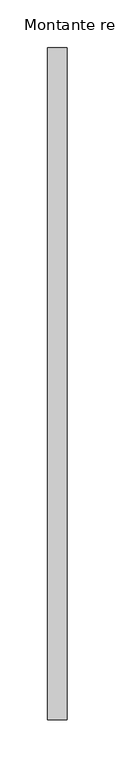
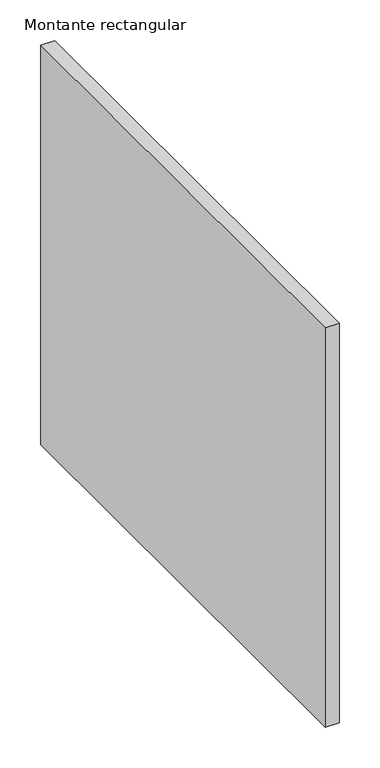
"""IFC4 building model written with IfcOpenShell, lengths in millimetres: member geometry, Montante rectangular : CIRCLES 2."""

from ifc_helpers import new_model, si_unit, frame, origin, place, context, project, spatial, polyline, outline, extrude, source, transform, mapped, element, save


def montante_rectangular_35cfc2e4(model_context):
    return source(origin(), model_context, "Body", "SweptSolid", [
        extrude(outline(polyline([(-20.0, 350.0), (0.0, 350.0), (0.0, -350.0), (-20.0, -350.0), (-20.0, 350.0)])), frame((0.0, 0.0, -600.0), z_axis=(0.0, 0.0, 1.0), x_axis=(1.0, 0.0, 0.0)), (0.0, 0.0, 1.0), 600.0),
    ])


if __name__ == "__main__":
    model = new_model("IFC4")
    model_context = context("Model", 3, world=origin())
    ifc_project = project(units=[si_unit("LENGTHUNIT", "METRE", prefix="MILLI")], contexts=[model_context])
    site = spatial("IfcSite", under=ifc_project)
    building = spatial("IfcBuilding", under=site)
    placement = place(None, origin())
    montante_rectangular_shape = montante_rectangular_35cfc2e4(model_context)
    element("IfcMember", 1, ObjectType="Montante rectangular : CIRCLES 2", at=placement, inside=building, context=model_context, shape_type="MappedRepresentation", body=[
        mapped(montante_rectangular_shape, transform((0.0, 0.0, 0.0), x_axis=(1.0, 0.0, 0.0), y_axis=(0.0, 1.0, 0.0), z_axis=(0.0, 0.0, 1.0))),
    ])
    save(model, "model.ifc")
